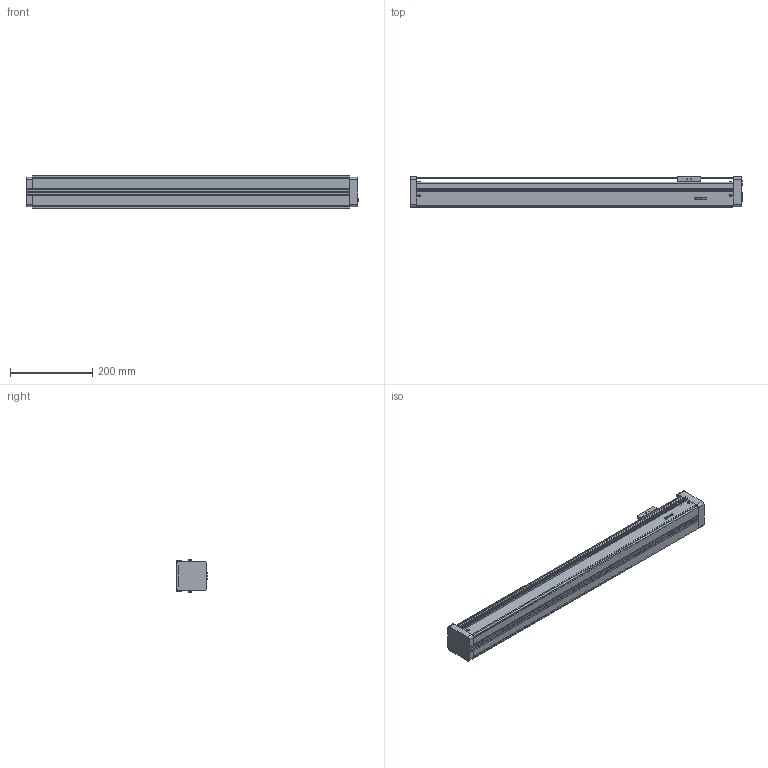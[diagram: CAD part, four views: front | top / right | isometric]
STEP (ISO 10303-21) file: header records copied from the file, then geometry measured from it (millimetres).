
FILE_DESCRIPTION(/* description */ (''),/* implementation_level */ '2;1');
FILE_NAME(/* name */ 'D:\混合母檔20191031\混和母檔\混和母檔\bin\Debug\Download\3D\KE7010C-600AF0\KE7010C-600AF0.stp',/* time_stamp */ '2019-11-04T14:13:07+08:00',/* author */ ('user'),/* organization */ (''),/* preprocessor_version */ 'ST-DEVELOPER v16.13',/* originating_system */ 'Autodesk Inventor 2018',/* authorisation */ '');
FILE_SCHEMA (('AUTOMOTIVE_DESIGN { 1 0 10303 214 3 1 1 }'));
Length unit declared in the file: millimetre
Products named in the file (3): KE7010C-600AF0; KE70-F0-BP; KE70-SL
Assembly tree (2 placements, depth 2):
  KE7010C-600AF0
    KE70-F0-BP
    KE70-SL
Bounding box: 807 x 75 x 79.4 mm (x, y, z)
Volume: 3318063.4 mm3; surface area: 483122.5 mm2
Topology: 2 solids, 29 shells, 847 faces, 2250 edges, 1467 vertices
Faces by surface type: plane 511, bspline 148, cylinder 110, cone 66, torus 12
Full cylindrical faces by diameter (mm): 2.459 x20, 3 x12, 3.242 x6, 3.5 x16, 4.134 x16, 5.7 x12, 6 x5, 30 x1
Entity records: 28058 total; most frequent: CARTESIAN_POINT 8823, ORIENTED_EDGE 3946, DIRECTION 3392, EDGE_CURVE 1973, VERTEX_POINT 1356, LINE 1284, VECTOR 1284, EDGE_LOOP 1059
